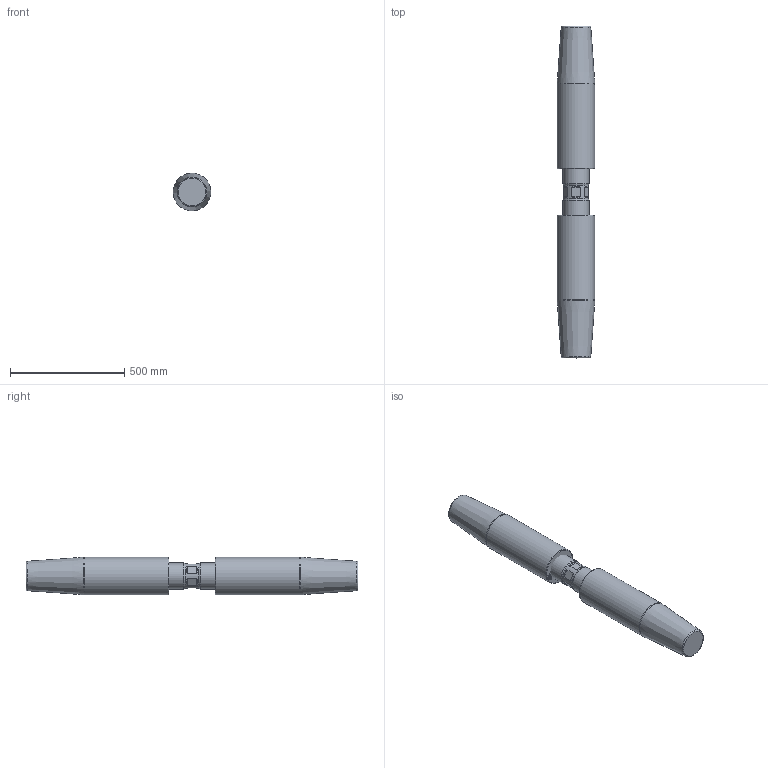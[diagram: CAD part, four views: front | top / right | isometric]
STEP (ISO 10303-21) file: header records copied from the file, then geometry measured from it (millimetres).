
FILE_DESCRIPTION(/* description */ (''),/* implementation_level */ '2;1');
FILE_NAME(/* name */ 'D:\Clienti\Redaelli (inventor)\CYA\STEP\Arrangement\CYA056 52 061 2.stp',/* time_stamp */ '2021-05-09T10:16:36+02:00',/* author */ ('fabri'),/* organization */ (''),/* preprocessor_version */ 'ST-DEVELOPER v16.13',/* originating_system */ 'Autodesk Inventor 2018',/* authorisation */ '');
FILE_SCHEMA (('AUTOMOTIVE_DESIGN { 1 0 10303 214 3 1 1 }'));
Length unit declared in the file: millimetre
Products named in the file (4): CYA012-54-062-0; TBF056-22-056-0; TBF012-13-012-0; TBF012-13-012-0_1
Assembly tree (3 placements, depth 2):
  CYA012-54-062-0
    TBF056-22-056-0
    TBF012-13-012-0
    TBF012-13-012-0_1
Bounding box: 164.89 x 1454 x 164.89 mm (x, y, z)
Volume: 31487047.5 mm3; surface area: 949650.5 mm2
Topology: 3 solids, 3 shells, 511 faces, 1377 edges, 918 vertices
Faces by surface type: bspline 288, plane 192, cylinder 19, cone 8, torus 4
Full cylindrical faces by diameter (mm): 8.376 x2, 111 x1, 115 x2, 165 x2
Entity records: 17845 total; most frequent: CARTESIAN_POINT 6972, ORIENTED_EDGE 2712, EDGE_CURVE 1356, DIRECTION 1246, VERTEX_POINT 916, LINE 730, VECTOR 730, B_SPLINE_CURVE_WITH_KNOTS 596
